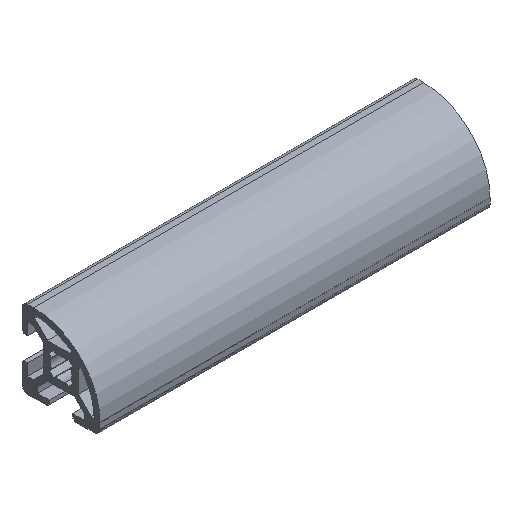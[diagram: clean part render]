
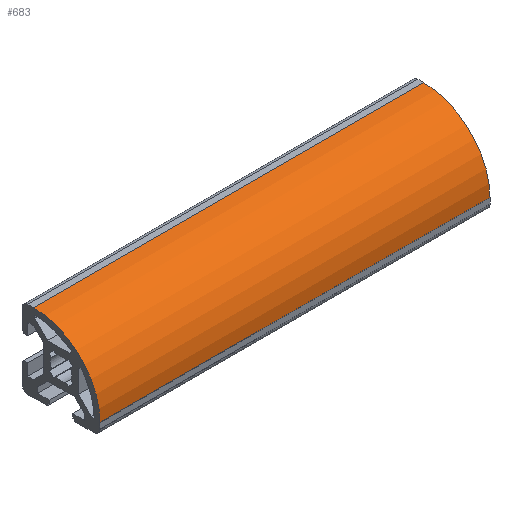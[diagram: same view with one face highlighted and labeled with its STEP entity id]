
A CAD part, isometric view. The second image highlights one B-rep face of the part: STEP entity #683.
In plain terms, the highlighted cylindrical face has radius 17 mm (diameter 34 mm), a partial arc.
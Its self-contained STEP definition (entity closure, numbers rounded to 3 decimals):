
#461=EDGE_CURVE('',#1071,#533,#1233,.T.);
#533=VERTEX_POINT('',#1312);
#583=EDGE_CURVE('',#695,#959,#1369,.T.);
#683=ADVANCED_FACE('',(#1478),#1479,.T.);
#695=VERTEX_POINT('',#1492);
#825=EDGE_CURVE('',#959,#533,#1633,.T.);
#959=VERTEX_POINT('',#1781);
#1071=VERTEX_POINT('',#1901);
#1073=EDGE_CURVE('',#1071,#695,#1903,.T.);
#1233=LINE('',#2090,#2091);
#1312=CARTESIAN_POINT('',(100.0,7.0,10.0));
#1369=LINE('',#2285,#2286);
#1478=FACE_OUTER_BOUND('',#2443,.T.);
#1479=CYLINDRICAL_SURFACE('',#2444,17.);
#1492=CARTESIAN_POINT('',(0.0,-10.0,-7.));
#1633=CIRCLE('',#2658,17.);
#1781=CARTESIAN_POINT('',(100.0,-10.0,-7.));
#1901=CARTESIAN_POINT('',(0.0,7.0,10.0));
#1903=CIRCLE('',#3054,17.);
#2090=CARTESIAN_POINT('',(0.0,7.0,10.0));
#2091=VECTOR('',#3269,1.0);
#2285=CARTESIAN_POINT('',(0.0,-10.0,-7.));
#2286=VECTOR('',#3447,1.0);
#2443=EDGE_LOOP('',(#3550,#3551,#3552,#3553));
#2444=AXIS2_PLACEMENT_3D('',#3554,#3555,#3556);
#2658=AXIS2_PLACEMENT_3D('',#3690,#3691,#3692);
#3054=AXIS2_PLACEMENT_3D('',#3944,#3945,#3946);
#3269=DIRECTION('',(1.0,0.0,0.0));
#3447=DIRECTION('',(1.0,0.0,0.0));
#3550=ORIENTED_EDGE('',*,*,#825,.T.);
#3551=ORIENTED_EDGE('',*,*,#461,.F.);
#3552=ORIENTED_EDGE('',*,*,#1073,.T.);
#3553=ORIENTED_EDGE('',*,*,#583,.T.);
#3554=CARTESIAN_POINT('',(0.0,7.,-7.));
#3555=DIRECTION('',(-1.0,-0.0,-0.0));
#3556=DIRECTION('',(0.0,0.,1.0));
#3690=CARTESIAN_POINT('',(100.0,7.,-7.));
#3691=DIRECTION('',(-1.0,0.0,0.0));
#3692=DIRECTION('',(0.0,0.,1.0));
#3944=CARTESIAN_POINT('',(0.0,7.,-7.));
#3945=DIRECTION('',(1.0,0.0,0.0));
#3946=DIRECTION('',(0.0,0.,1.0));
